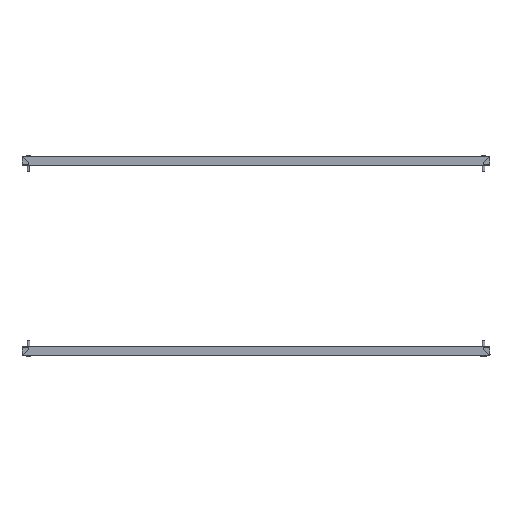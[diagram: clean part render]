
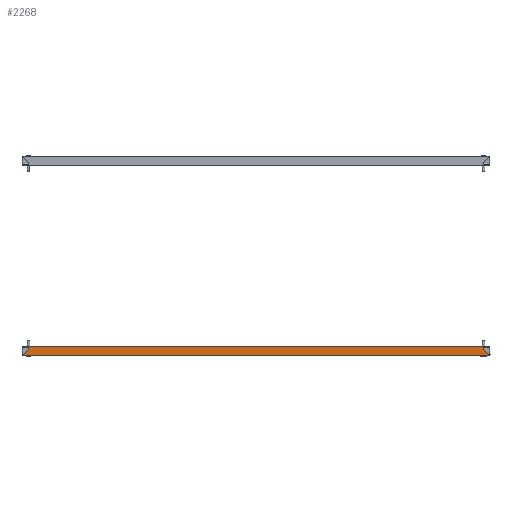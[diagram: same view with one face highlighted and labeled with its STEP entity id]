
A CAD part, front view. The second image highlights one B-rep face of the part: STEP entity #2268.
In plain terms, the highlighted planar face has unit normal (0, -1, 0).
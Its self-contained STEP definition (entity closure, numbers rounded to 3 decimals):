
#36 = CARTESIAN_POINT ( 'NONE',  ( -205.986, -50., 703.632 ) ) ;
#55 = CARTESIAN_POINT ( 'NONE',  ( -486., -50., 11.646 ) ) ;
#83 = ORIENTED_EDGE ( 'NONE', *, *, #5035, .F. ) ;
#143 = CARTESIAN_POINT ( 'NONE',  ( -497.046, -50., 0.6 ) ) ;
#258 = VERTEX_POINT ( 'NONE', #7298 ) ;
#265 = CARTESIAN_POINT ( 'NONE',  ( 486., -50., 11.646 ) ) ;
#283 = VERTEX_POINT ( 'NONE', #265 ) ;
#318 = CARTESIAN_POINT ( 'NONE',  ( -497.181, -50., -0.799 ) ) ;
#475 = DIRECTION ( 'NONE',  ( -1., 0., 0. ) ) ;
#780 = DIRECTION ( 'NONE',  ( 0.707, 0., -0.707 ) ) ;
#1287 = CARTESIAN_POINT ( 'NONE',  ( 0., -50., 0. ) ) ;
#1317 = CARTESIAN_POINT ( 'NONE',  ( 497.223, -50., -1.5 ) ) ;
#1472 = CARTESIAN_POINT ( 'NONE',  ( 497.084, -50., 0.251 ) ) ;
#1521 = EDGE_CURVE ( 'NONE', #283, #7930, #1532, .T. ) ;
#1532 = LINE ( 'NONE', #36, #6919 ) ;
#1745 = EDGE_LOOP ( 'NONE', ( #9487, #5736, #7546, #2232, #83, #7205, #9415, #7253 ) ) ;
#1917 = EDGE_CURVE ( 'NONE', #283, #8488, #6707, .T. ) ;
#1928 = CARTESIAN_POINT ( 'NONE',  ( -497.204, -50., -1.149 ) ) ;
#2066 = CARTESIAN_POINT ( 'NONE',  ( -497.046, -50., 0.6 ) ) ;
#2104 = DIRECTION ( 'NONE',  ( 0., 0., 1. ) ) ;
#2198 = FACE_OUTER_BOUND ( 'NONE', #1745, .T. ) ;
#2232 = ORIENTED_EDGE ( 'NONE', *, *, #8473, .T. ) ;
#2268 = ADVANCED_FACE ( 'NONE', ( #2198 ), #5982, .F. ) ;
#2287 = CARTESIAN_POINT ( 'NONE',  ( 497.121, -50., -0.099 ) ) ;
#2441 = CARTESIAN_POINT ( 'NONE',  ( 0., -50., -1.5 ) ) ;
#2742 = AXIS2_PLACEMENT_3D ( 'NONE', #1287, #9095, #2104 ) ;
#2815 = VECTOR ( 'NONE', #4812, 1000. ) ;
#2838 = EDGE_CURVE ( 'NONE', #6936, #7131, #9304, .T. ) ;
#2970 = CARTESIAN_POINT ( 'NONE',  ( 497.223, -50., -1.5 ) ) ;
#3068 = VERTEX_POINT ( 'NONE', #2970 ) ;
#3088 = VECTOR ( 'NONE', #9592, 1000. ) ;
#3387 = CARTESIAN_POINT ( 'NONE',  ( -497.223, -50., -1.5 ) ) ;
#3760 = CARTESIAN_POINT ( 'NONE',  ( 486., -50., 11.646 ) ) ;
#3882 = CARTESIAN_POINT ( 'NONE',  ( -486., -50., 17.5 ) ) ;
#3896 = LINE ( 'NONE', #2441, #2815 ) ;
#4139 = CARTESIAN_POINT ( 'NONE',  ( -497.046, -50., 0.6 ) ) ;
#4140 = LINE ( 'NONE', #2066, #3088 ) ;
#4548 = CARTESIAN_POINT ( 'NONE',  ( 497.204, -50., -1.149 ) ) ;
#4573 = CARTESIAN_POINT ( 'NONE',  ( 486., -50., 17.5 ) ) ;
#4812 = DIRECTION ( 'NONE',  ( 1., 0., 0. ) ) ;
#5035 = EDGE_CURVE ( 'NONE', #6936, #258, #4140, .T. ) ;
#5042 = CARTESIAN_POINT ( 'NONE',  ( -497.084, -50., 0.251 ) ) ;
#5147 = VECTOR ( 'NONE', #7453, 1000. ) ;
#5183 = DIRECTION ( 'NONE',  ( 0., 0., -1. ) ) ;
#5201 = CARTESIAN_POINT ( 'NONE',  ( 497.046, -50., 0.6 ) ) ;
#5736 = ORIENTED_EDGE ( 'NONE', *, *, #1917, .T. ) ;
#5777 = VERTEX_POINT ( 'NONE', #3882 ) ;
#5877 = CARTESIAN_POINT ( 'NONE',  ( -497.223, -50., -1.5 ) ) ;
#5982 = PLANE ( 'NONE',  #2742 ) ;
#5994 = LINE ( 'NONE', #55, #8770 ) ;
#6479 = CARTESIAN_POINT ( 'NONE',  ( 0., -50., 17.5 ) ) ;
#6536 = EDGE_CURVE ( 'NONE', #7131, #3068, #3896, .T. ) ;
#6649 = B_SPLINE_CURVE_WITH_KNOTS ( 'NONE', 3,
 ( #5201, #1472, #2287, #9851, #4548, #1317 ),
 .UNSPECIFIED., .F., .F.,
 ( 4, 2, 4 ),
 ( 0.005, 0.006, 0.008 ),
 .UNSPECIFIED. ) ;
#6667 = CARTESIAN_POINT ( 'NONE',  ( 497.046, -50., 0.6 ) ) ;
#6707 = LINE ( 'NONE', #3760, #5147 ) ;
#6919 = VECTOR ( 'NONE', #780, 1000. ) ;
#6936 = VERTEX_POINT ( 'NONE', #143 ) ;
#7131 = VERTEX_POINT ( 'NONE', #5877 ) ;
#7205 = ORIENTED_EDGE ( 'NONE', *, *, #2838, .T. ) ;
#7253 = ORIENTED_EDGE ( 'NONE', *, *, #9485, .F. ) ;
#7298 = CARTESIAN_POINT ( 'NONE',  ( -486., -50., 11.646 ) ) ;
#7453 = DIRECTION ( 'NONE',  ( 0., 0., 1. ) ) ;
#7546 = ORIENTED_EDGE ( 'NONE', *, *, #9231, .T. ) ;
#7930 = VERTEX_POINT ( 'NONE', #6667 ) ;
#8473 = EDGE_CURVE ( 'NONE', #5777, #258, #5994, .T. ) ;
#8488 = VERTEX_POINT ( 'NONE', #4573 ) ;
#8743 = LINE ( 'NONE', #6479, #9091 ) ;
#8770 = VECTOR ( 'NONE', #5183, 1000. ) ;
#9091 = VECTOR ( 'NONE', #475, 1000. ) ;
#9095 = DIRECTION ( 'NONE',  ( 0., 1., 0. ) ) ;
#9231 = EDGE_CURVE ( 'NONE', #8488, #5777, #8743, .T. ) ;
#9304 = B_SPLINE_CURVE_WITH_KNOTS ( 'NONE', 3,
 ( #4139, #5042, #9541, #318, #1928, #3387 ),
 .UNSPECIFIED., .F., .F.,
 ( 4, 2, 4 ),
 ( 0.005, 0.006, 0.008 ),
 .UNSPECIFIED. ) ;
#9415 = ORIENTED_EDGE ( 'NONE', *, *, #6536, .T. ) ;
#9485 = EDGE_CURVE ( 'NONE', #7930, #3068, #6649, .T. ) ;
#9487 = ORIENTED_EDGE ( 'NONE', *, *, #1521, .F. ) ;
#9541 = CARTESIAN_POINT ( 'NONE',  ( -497.121, -50., -0.099 ) ) ;
#9592 = DIRECTION ( 'NONE',  ( 0.707, 0., 0.707 ) ) ;
#9851 = CARTESIAN_POINT ( 'NONE',  ( 497.181, -50., -0.799 ) ) ;
